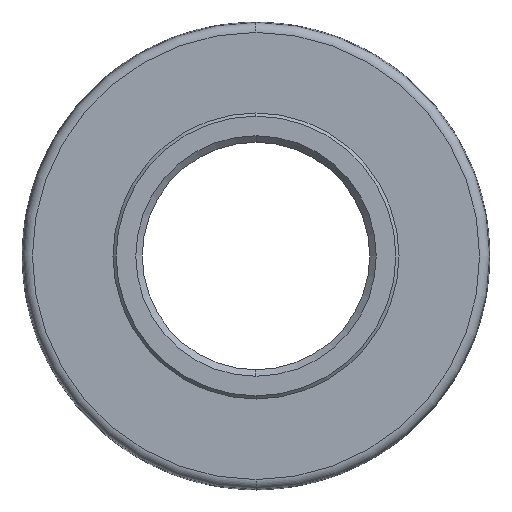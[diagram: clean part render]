
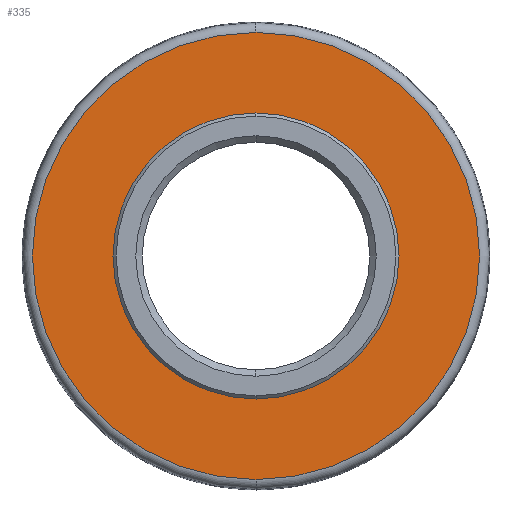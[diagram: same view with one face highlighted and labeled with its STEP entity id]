
A CAD part, left-side view. The second image highlights one B-rep face of the part: STEP entity #335.
In plain terms, the highlighted planar face has unit normal (-1, 0, 0).
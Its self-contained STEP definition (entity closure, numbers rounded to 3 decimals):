
#28 = AXIS2_PLACEMENT_3D ( 'NONE', #76, #516, #387 ) ;
#38 = DIRECTION ( 'NONE',  ( 0., 0., 1. ) ) ;
#76 = CARTESIAN_POINT ( 'NONE',  ( -14., 0., 0. ) ) ;
#82 = DIRECTION ( 'NONE',  ( 1., 0., 0. ) ) ;
#83 = EDGE_LOOP ( 'NONE', ( #215, #559 ) ) ;
#87 = VERTEX_POINT ( 'NONE', #428 ) ;
#107 = CARTESIAN_POINT ( 'NONE',  ( -14., 34.399, 0. ) ) ;
#124 = CIRCLE ( 'NONE', #28, 22. ) ;
#177 = VERTEX_POINT ( 'NONE', #238 ) ;
#183 = EDGE_CURVE ( 'NONE', #720, #87, #479, .T. ) ;
#215 = ORIENTED_EDGE ( 'NONE', *, *, #183, .T. ) ;
#238 = CARTESIAN_POINT ( 'NONE',  ( -14., 0., 34.399 ) ) ;
#264 = EDGE_CURVE ( 'NONE', #87, #720, #124, .T. ) ;
#289 = DIRECTION ( 'NONE',  ( 0., 0., -1. ) ) ;
#297 = CARTESIAN_POINT ( 'NONE',  ( -14., 0., 0. ) ) ;
#300 = EDGE_CURVE ( 'NONE', #177, #679, #573, .T. ) ;
#302 = DIRECTION ( 'NONE',  ( 0., 0., -1. ) ) ;
#320 = AXIS2_PLACEMENT_3D ( 'NONE', #297, #648, #289 ) ;
#335 = ADVANCED_FACE ( 'NONE', ( #398, #414 ), #594, .T. ) ;
#361 = CARTESIAN_POINT ( 'NONE',  ( -14., 0., 0. ) ) ;
#387 = DIRECTION ( 'NONE',  ( 0., 0., -1. ) ) ;
#390 = CARTESIAN_POINT ( 'NONE',  ( -14., 0., -22. ) ) ;
#398 = FACE_BOUND ( 'NONE', #83, .T. ) ;
#413 = EDGE_LOOP ( 'NONE', ( #772, #730 ) ) ;
#414 = FACE_OUTER_BOUND ( 'NONE', #413, .T. ) ;
#428 = CARTESIAN_POINT ( 'NONE',  ( -14., 0., 22. ) ) ;
#445 = CIRCLE ( 'NONE', #719, 34.399 ) ;
#453 = CARTESIAN_POINT ( 'NONE',  ( -14., 0., 0. ) ) ;
#479 = CIRCLE ( 'NONE', #646, 22. ) ;
#492 = EDGE_CURVE ( 'NONE', #679, #177, #445, .T. ) ;
#516 = DIRECTION ( 'NONE',  ( 1., 0., 0. ) ) ;
#520 = DIRECTION ( 'NONE',  ( 0., 0., -1. ) ) ;
#559 = ORIENTED_EDGE ( 'NONE', *, *, #264, .T. ) ;
#573 = CIRCLE ( 'NONE', #320, 34.399 ) ;
#594 = PLANE ( 'NONE',  #735 ) ;
#646 = AXIS2_PLACEMENT_3D ( 'NONE', #361, #713, #302 ) ;
#648 = DIRECTION ( 'NONE',  ( 1., 0., 0. ) ) ;
#674 = CARTESIAN_POINT ( 'NONE',  ( -14., 0., -34.399 ) ) ;
#679 = VERTEX_POINT ( 'NONE', #674 ) ;
#713 = DIRECTION ( 'NONE',  ( 1., 0., 0. ) ) ;
#719 = AXIS2_PLACEMENT_3D ( 'NONE', #453, #82, #520 ) ;
#720 = VERTEX_POINT ( 'NONE', #390 ) ;
#730 = ORIENTED_EDGE ( 'NONE', *, *, #300, .F. ) ;
#735 = AXIS2_PLACEMENT_3D ( 'NONE', #107, #766, #38 ) ;
#766 = DIRECTION ( 'NONE',  ( -1., 0., 0. ) ) ;
#772 = ORIENTED_EDGE ( 'NONE', *, *, #492, .F. ) ;
